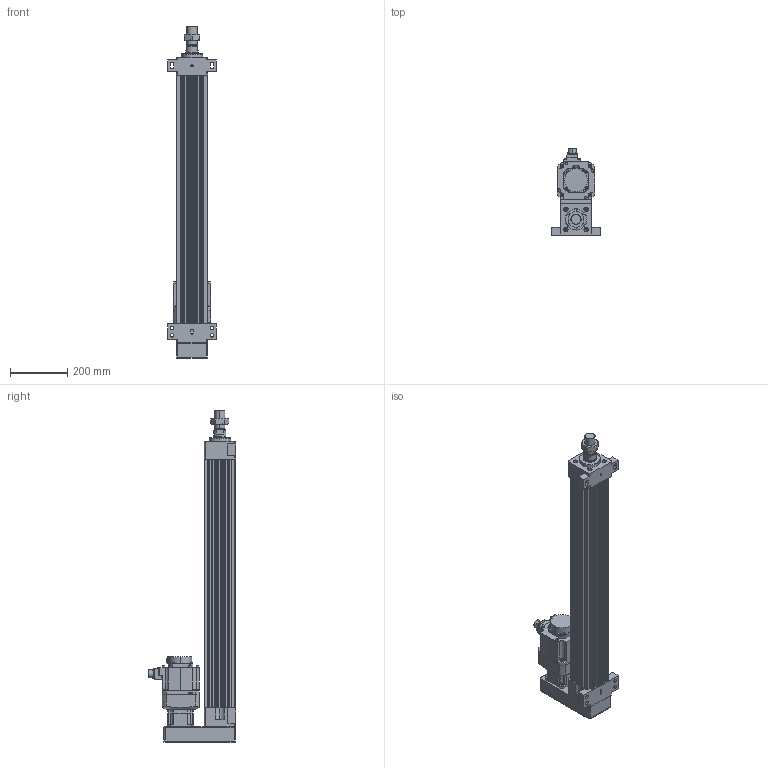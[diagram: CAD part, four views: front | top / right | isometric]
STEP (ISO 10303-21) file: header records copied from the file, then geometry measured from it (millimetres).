
FILE_DESCRIPTION (( 'STEP AP203' ), '1' );
FILE_NAME ('HES110NS(HS)-P700-W010G00-M-FFB.STEP', '2023-01-26T09:33:06', ( 'tms' ), ( '' ), 'SwSTEP 2.0', 'SolidWorks 2013', '' );
FILE_SCHEMA (( 'CONFIG_CONTROL_DESIGN' ));
Length unit declared in the file: millimetre
Products named in the file (8): HG-SR102; AB090-003[HG-SR102B]; HES110 ROD M ST700; M36X1.5P; HES110-P700-G090-FFB; HES110NS(HS)-P700-W010G00-M-FFB; AB0901; P0401301004
Assembly tree (7 placements, depth 3):
  HES110NS(HS)-P700-W010G00-M-FFB
    HES110-P700-G090-FFB
    HES110 ROD M ST700
    M36X1.5P
    AB090-003[HG-SR102B]
      AB0901
      P0401301004
    HG-SR102
Bounding box: 170 x 304.99 x 1163 mm (x, y, z)
Volume: 9949826.7 mm3; surface area: 1333565.5 mm2
Topology: 4 solids, 11 shells, 1083 faces, 2775 edges, 1806 vertices
Faces by surface type: cylinder 501, plane 500, cone 70, bspline 8, torus 4
Entity records: 34904 total; most frequent: CARTESIAN_POINT 6854, DIRECTION 5982, ORIENTED_EDGE 5502, EDGE_CURVE 2761, AXIS2_PLACEMENT_3D 2205, VERTEX_POINT 1806, LINE 1572, VECTOR 1572
